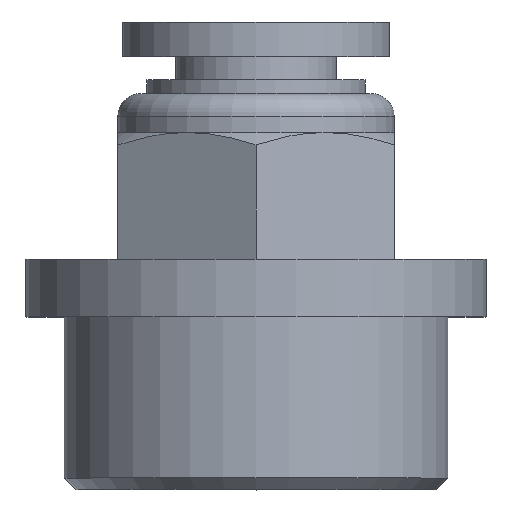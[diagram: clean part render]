
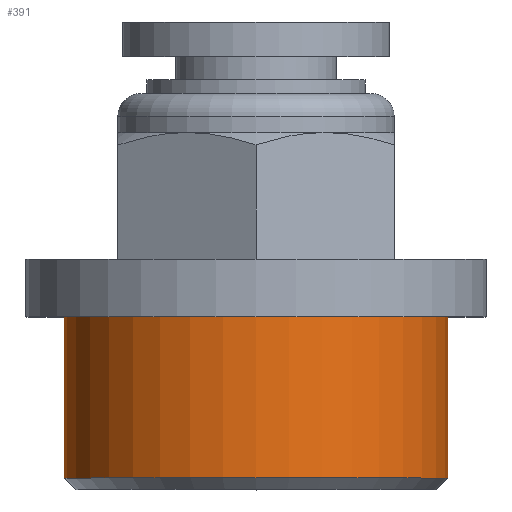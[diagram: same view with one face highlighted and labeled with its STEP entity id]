
A CAD part, top view. The second image highlights one B-rep face of the part: STEP entity #391.
In plain terms, the highlighted cylindrical face has radius 8.331 mm (diameter 16.662 mm), a full revolution.
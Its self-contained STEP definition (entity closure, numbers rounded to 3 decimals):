
#349=CARTESIAN_POINT('',(8.331,-19.8,0.));
#350=VERTEX_POINT('',#349);
#351=CARTESIAN_POINT('',(0.0,-19.8,0.0));
#352=DIRECTION('',(0.0,-1.0,0.0));
#353=DIRECTION('',(-1.0,0.0,0.0));
#354=AXIS2_PLACEMENT_3D('',#351,#352,#353);
#355=CIRCLE('',#354,8.331);
#356=EDGE_CURVE('',#350,#350,#355,.T.);
#372=CARTESIAN_POINT('',(0.0,-16.55,0.0));
#373=DIRECTION('',(0.0,-1.0,0.0));
#374=DIRECTION('',(1.0,0.0,0.0));
#375=AXIS2_PLACEMENT_3D('',#372,#373,#374);
#376=CYLINDRICAL_SURFACE('',#375,8.331);
#377=CARTESIAN_POINT('',(8.331,-12.8,0.0));
#378=VERTEX_POINT('',#377);
#379=CARTESIAN_POINT('',(0.0,-12.8,0.0));
#380=DIRECTION('',(0.0,-1.0,0.0));
#381=DIRECTION('',(1.0,0.0,0.0));
#382=AXIS2_PLACEMENT_3D('',#379,#380,#381);
#383=CIRCLE('',#382,8.331);
#384=EDGE_CURVE('',#378,#378,#383,.T.);
#385=ORIENTED_EDGE('',*,*,#384,.T.);
#386=EDGE_LOOP('',(#385));
#387=FACE_OUTER_BOUND('',#386,.T.);
#388=ORIENTED_EDGE('',*,*,#356,.F.);
#389=EDGE_LOOP('',(#388));
#390=FACE_BOUND('',#389,.T.);
#391=ADVANCED_FACE('',(#387,#390),#376,.T.);
